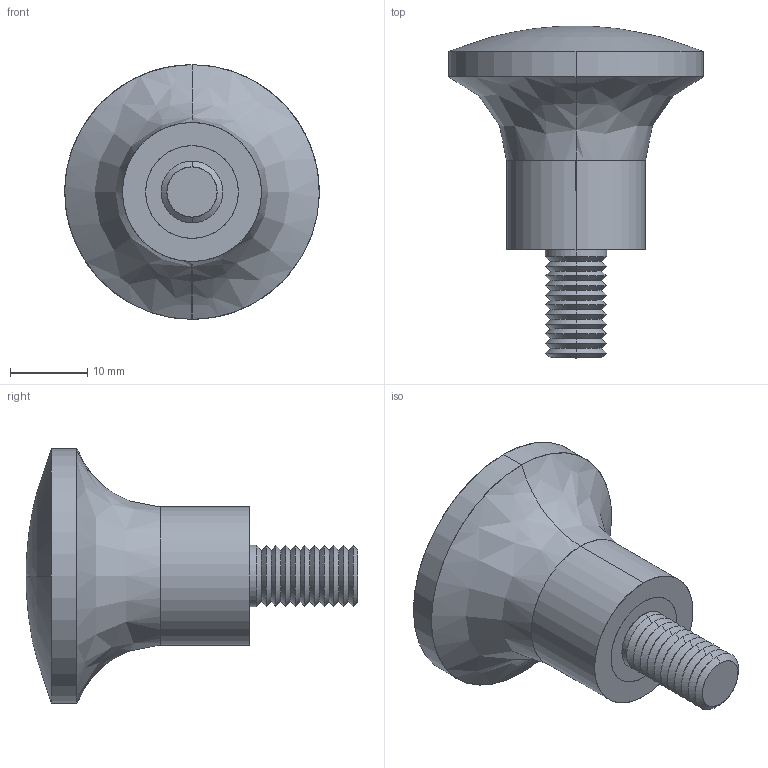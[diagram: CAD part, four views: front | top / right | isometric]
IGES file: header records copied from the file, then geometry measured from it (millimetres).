
Start section: SolidWorks IGES file using analytic representation for surfaces
Global section: file name: C:\Users\IanO\Desktop\Temp File\Process pending\73200_v2\73200_v2_20171103_IGES\73200.W0133.igs; native system: SolidWorks 2017; preprocessor: SolidWorks 2017; author: IanO; date: 171103.111814; units: millimetre
Bounding box: 33 x 43 x 33 mm (x, y, z)
Surface area: 5070.9 mm2 (no closed solid volume)
Topology: 0 solids, 0 shells, 75 faces, 692 edges, 687 vertices
Faces by surface type: revolution 66, bspline 9
